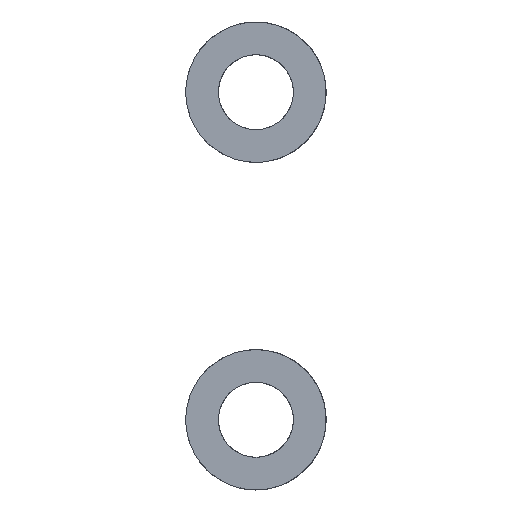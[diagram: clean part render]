
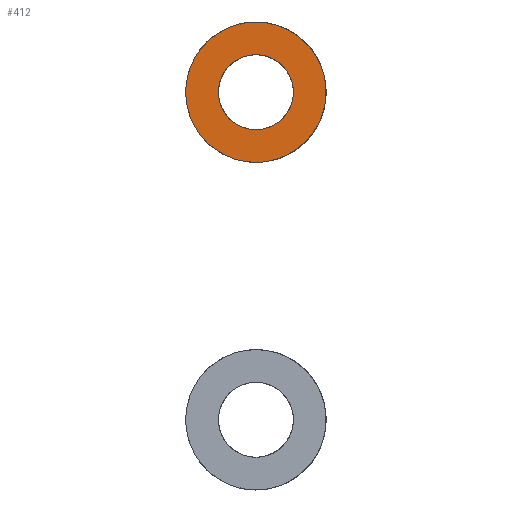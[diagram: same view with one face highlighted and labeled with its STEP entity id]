
A CAD part, left-side view. The second image highlights one B-rep face of the part: STEP entity #412.
In plain terms, the highlighted planar face has unit normal (-1, 0, 0).
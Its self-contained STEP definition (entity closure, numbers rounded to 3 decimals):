
#39=FACE_BOUND('',#481,.T.);
#49=PLANE('',#1359);
#412=ADVANCED_FACE('',(#442,#39),#49,.T.);
#442=FACE_OUTER_BOUND('',#480,.T.);
#480=EDGE_LOOP('',(#571));
#481=EDGE_LOOP('',(#572));
#571=ORIENTED_EDGE('',*,*,#1051,.T.);
#572=ORIENTED_EDGE('',*,*,#1052,.T.);
#653=(
BOUNDED_CURVE()
B_SPLINE_CURVE(2,(#2455,#2456,#2457,#2458,#2459,#2460,#2461,#2462,#2463),
 .UNSPECIFIED.,.T.,.F.)
B_SPLINE_CURVE_WITH_KNOTS((3,2,2,2,3),(0.,1.571,3.142,
4.712,6.283),.UNSPECIFIED.)
CURVE()
GEOMETRIC_REPRESENTATION_ITEM()
RATIONAL_B_SPLINE_CURVE((1.,0.707,1.,0.707,1.,0.707,
1.,0.707,1.))
REPRESENTATION_ITEM('')
);
#654=(
BOUNDED_CURVE()
B_SPLINE_CURVE(2,(#2464,#2465,#2466,#2467,#2468,#2469,#2470,#2471,#2472),
 .UNSPECIFIED.,.T.,.F.)
B_SPLINE_CURVE_WITH_KNOTS((3,2,2,2,3),(0.,1.571,3.142,
4.712,6.283),.UNSPECIFIED.)
CURVE()
GEOMETRIC_REPRESENTATION_ITEM()
RATIONAL_B_SPLINE_CURVE((1.,0.707,1.,0.707,1.,0.707,
1.,0.707,1.))
REPRESENTATION_ITEM('')
);
#655=(
BOUNDED_CURVE()
B_SPLINE_CURVE(2,(#2473,#2474,#2475,#2476,#2477,#2478,#2479,#2480,#2481),
 .UNSPECIFIED.,.T.,.F.)
B_SPLINE_CURVE_WITH_KNOTS((3,2,2,2,3),(3.142,4.712,
6.283,7.854,9.425),.UNSPECIFIED.)
CURVE()
GEOMETRIC_REPRESENTATION_ITEM()
RATIONAL_B_SPLINE_CURVE((1.,0.707,1.,0.707,1.,0.707,
1.,0.707,1.))
REPRESENTATION_ITEM('')
);
#656=(
BOUNDED_CURVE()
B_SPLINE_CURVE(2,(#2482,#2483,#2484,#2485,#2486,#2487,#2488,#2489,#2490),
 .UNSPECIFIED.,.T.,.F.)
B_SPLINE_CURVE_WITH_KNOTS((3,2,2,2,3),(3.142,4.712,
6.283,7.854,9.425),.UNSPECIFIED.)
CURVE()
GEOMETRIC_REPRESENTATION_ITEM()
RATIONAL_B_SPLINE_CURVE((1.,0.707,1.,0.707,1.,0.707,
1.,0.707,1.))
REPRESENTATION_ITEM('')
);
#751=PCURVE('',#49,#851);
#752=PCURVE('',#49,#852);
#851=DEFINITIONAL_REPRESENTATION('',(#654),#2667);
#852=DEFINITIONAL_REPRESENTATION('',(#656),#2667);
#951=SURFACE_CURVE('',#653,(#751),.PCURVE_S1.);
#952=SURFACE_CURVE('',#655,(#752),.PCURVE_S1.);
#1051=EDGE_CURVE('',#1271,#1271,#951,.T.);
#1052=EDGE_CURVE('',#1272,#1272,#952,.T.);
#1271=VERTEX_POINT('',#2453);
#1272=VERTEX_POINT('',#2454);
#1359=AXIS2_PLACEMENT_3D('',#2452,#1378,$);
#1378=DIRECTION('',(-1.,0.,0.));
#2452=CARTESIAN_POINT('',(-0.5,-3.,3.));
#2453=CARTESIAN_POINT('',(-0.5,3.,0.));
#2454=CARTESIAN_POINT('',(-0.5,-1.6,0.));
#2455=CARTESIAN_POINT('',(-0.5,3.,0.));
#2456=CARTESIAN_POINT('',(-0.5,3.,-3.));
#2457=CARTESIAN_POINT('',(-0.5,0.,-3.));
#2458=CARTESIAN_POINT('',(-0.5,-3.,-3.));
#2459=CARTESIAN_POINT('',(-0.5,-3.,0.));
#2460=CARTESIAN_POINT('',(-0.5,-3.,3.));
#2461=CARTESIAN_POINT('',(-0.5,0.,3.));
#2462=CARTESIAN_POINT('',(-0.5,3.,3.));
#2463=CARTESIAN_POINT('',(-0.5,3.,0.));
#2464=CARTESIAN_POINT('',(1.,0.5));
#2465=CARTESIAN_POINT('',(1.,1.));
#2466=CARTESIAN_POINT('',(0.5,1.));
#2467=CARTESIAN_POINT('',(0.,1.));
#2468=CARTESIAN_POINT('',(0.,0.5));
#2469=CARTESIAN_POINT('',(0.,0.));
#2470=CARTESIAN_POINT('',(0.5,0.));
#2471=CARTESIAN_POINT('',(1.,0.));
#2472=CARTESIAN_POINT('',(1.,0.5));
#2473=CARTESIAN_POINT('',(-0.5,-1.6,0.));
#2474=CARTESIAN_POINT('',(-0.5,-1.6,-1.6));
#2475=CARTESIAN_POINT('',(-0.5,0.,-1.6));
#2476=CARTESIAN_POINT('',(-0.5,1.6,-1.6));
#2477=CARTESIAN_POINT('',(-0.5,1.6,0.));
#2478=CARTESIAN_POINT('',(-0.5,1.6,1.6));
#2479=CARTESIAN_POINT('',(-0.5,0.,1.6));
#2480=CARTESIAN_POINT('',(-0.5,-1.6,1.6));
#2481=CARTESIAN_POINT('',(-0.5,-1.6,0.));
#2482=CARTESIAN_POINT('',(0.233,0.5));
#2483=CARTESIAN_POINT('',(0.233,0.767));
#2484=CARTESIAN_POINT('',(0.5,0.767));
#2485=CARTESIAN_POINT('',(0.767,0.767));
#2486=CARTESIAN_POINT('',(0.767,0.5));
#2487=CARTESIAN_POINT('',(0.767,0.233));
#2488=CARTESIAN_POINT('',(0.5,0.233));
#2489=CARTESIAN_POINT('',(0.233,0.233));
#2490=CARTESIAN_POINT('',(0.233,0.5));
#2667=(
GEOMETRIC_REPRESENTATION_CONTEXT(2)
PARAMETRIC_REPRESENTATION_CONTEXT()
REPRESENTATION_CONTEXT('pspace','')
);
